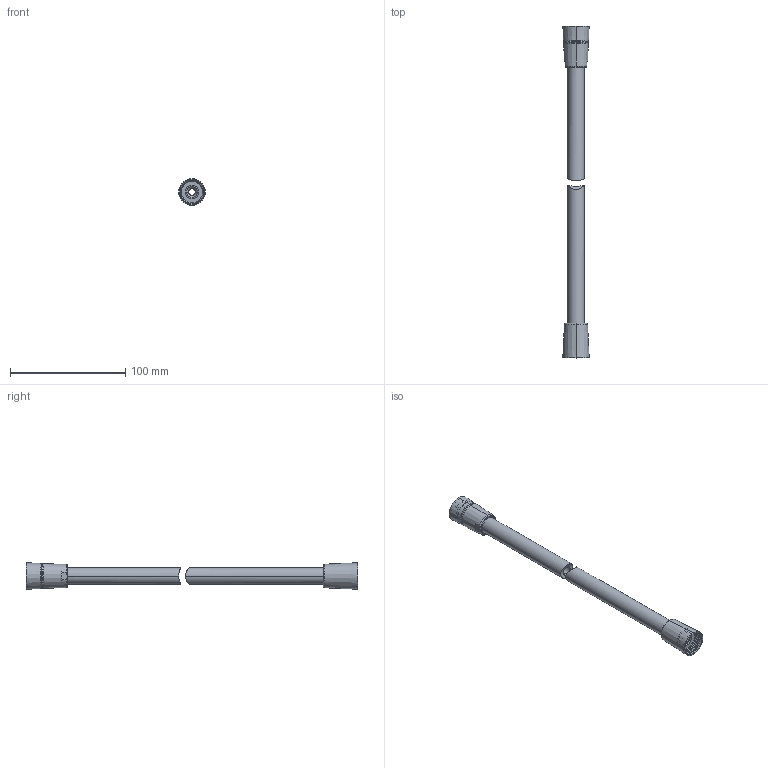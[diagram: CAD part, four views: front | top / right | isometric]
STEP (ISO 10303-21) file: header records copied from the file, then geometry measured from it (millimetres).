
FILE_DESCRIPTION((''),'2;1');
FILE_NAME('766820000_ASM','2022-10-07T14:33:56',('sosm1'),(''),'CREO PARAMETRIC BY PTC INC, 2018190','CREO PARAMETRIC BY PTC INC, 2018190','');
FILE_SCHEMA(('CONFIG_CONTROL_DESIGN','SHAPE_APPEARANCE_LAYERS_GROUPS'));
Length unit declared in the file: millimetre
Products named in the file (11): 76654_POS09; 76654_POS08; 76654_POS03; 76654_POS02; 76654_POS01; 76654_POS04; 76654_POS05; 76654_POS06; 76654_POS07; 4322100_ASM; 766820000_ASM
Assembly tree (12 placements, depth 3):
  766820000_ASM
    4322100_ASM
      76654_POS09
      76654_POS08  x2
      76654_POS03
      76654_POS02
      76654_POS01
      76654_POS04
      76654_POS05
      76654_POS06
      76654_POS07  x2
Bounding box: 22.98 x 288.1 x 22.98 mm (x, y, z)
Volume: 39640.7 mm3; surface area: 37584.3 mm2
Topology: 12 solids, 14 shells, 249 faces, 532 edges, 320 vertices
Faces by surface type: cylinder 98, torus 62, plane 41, cone 28, bspline 20
Entity records: 9898 total; most frequent: CARTESIAN_POINT 4757, DIRECTION 1112, ORIENTED_EDGE 900, AXIS2_PLACEMENT_3D 498, EDGE_CURVE 454, VERTEX_POINT 276, CIRCLE 266, EDGE_LOOP 242
